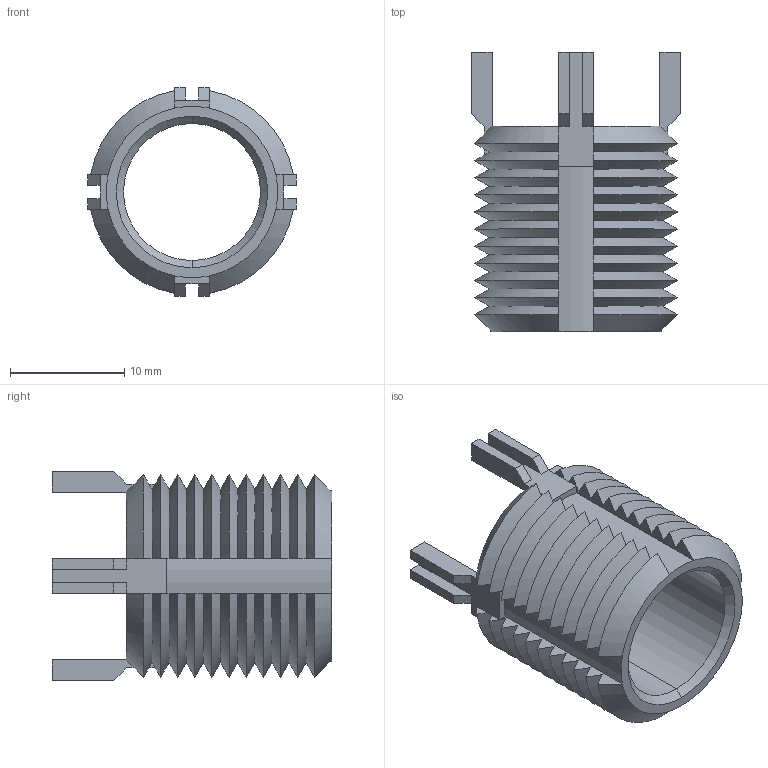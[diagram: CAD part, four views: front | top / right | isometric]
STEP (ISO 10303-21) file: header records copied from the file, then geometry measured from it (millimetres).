
FILE_DESCRIPTION (( 'STEP AP203' ), '1' );
FILE_NAME ('22002.W5691.step', '2023-03-20T19:28:49', ( '' ), ( '' ), 'SwSTEP 2.0', 'SolidWorks 2019', '' );
FILE_SCHEMA (( 'CONFIG_CONTROL_DESIGN' ));
Length unit declared in the file: millimetre
Products named in the file (1): 22002.W5691
Bounding box: 18.3 x 24.5 x 18.3 mm (x, y, z)
Volume: 1830.6 mm3; surface area: 2808.6 mm2
Topology: 1 solids, 1 shells, 188 faces, 498 edges, 312 vertices
Faces by surface type: cone 92, plane 90, cylinder 6
Entity records: 6027 total; most frequent: CARTESIAN_POINT 1647, ORIENTED_EDGE 996, DIRECTION 768, EDGE_CURVE 498, VERTEX_POINT 312, AXIS2_PLACEMENT_3D 297, B_SPLINE_CURVE_WITH_KNOTS 216, EDGE_LOOP 190
